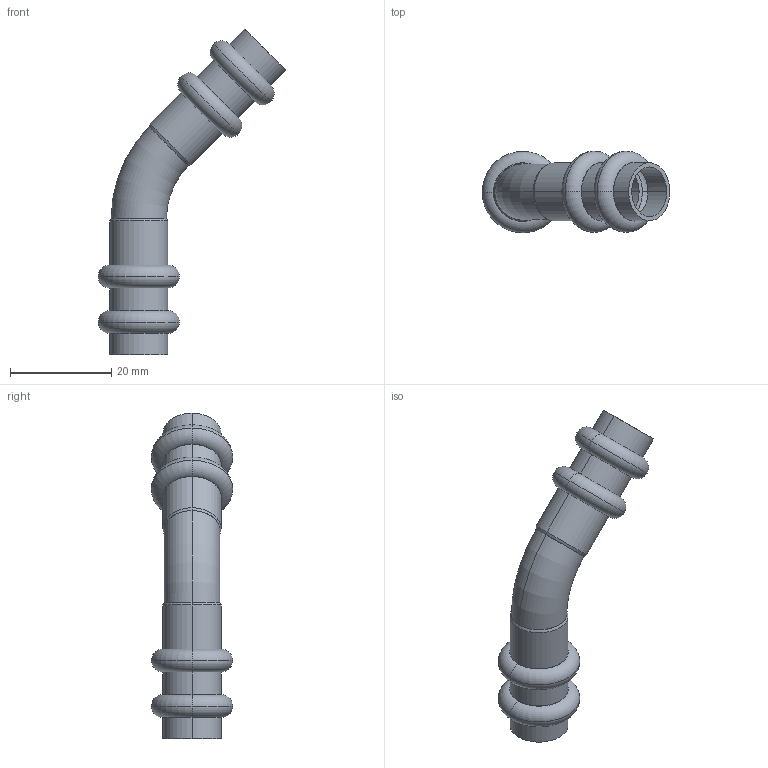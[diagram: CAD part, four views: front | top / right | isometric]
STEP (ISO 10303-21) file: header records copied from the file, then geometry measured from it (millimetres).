
FILE_DESCRIPTION(('starvars output'),'1');
FILE_NAME('cv20240422105054000011889.stp','10:50:54 2024/04/22',('Thomas Industrial Network Germany GmbH'),(' '),'Spatial InterOp 3D',' ',' ');
FILE_SCHEMA(('AUTOMOTIVE_DESIGN { 1 0 10303 214 3 1 1 }'));
Length unit declared in the file: millimetre
Products named in the file (1): 1
Bounding box: 37.14 x 16.1 x 64.48 mm (x, y, z)
Volume: 3000.7 mm3; surface area: 5632.6 mm2
Topology: 1 solids, 1 shells, 74 faces, 148 edges, 92 vertices
Faces by surface type: torus 28, cylinder 20, plane 18, cone 8
Entity records: 2832 total; most frequent: CARTESIAN_POINT 567, DIRECTION 410, ORIENTED_EDGE 296, AXIS2_PLACEMENT_3D 191, EDGE_CURVE 148, CIRCLE 116, EDGE_LOOP 92, VERTEX_POINT 92
